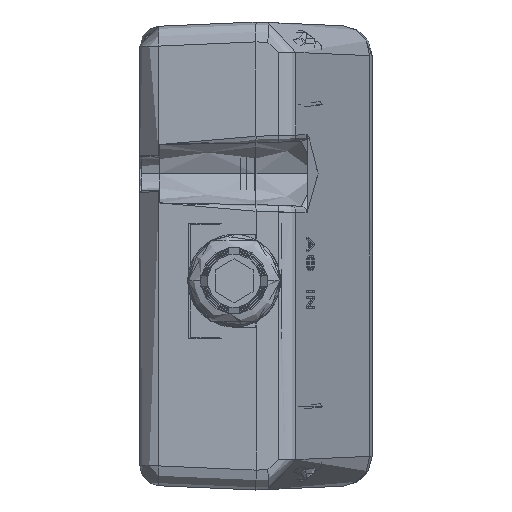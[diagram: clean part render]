
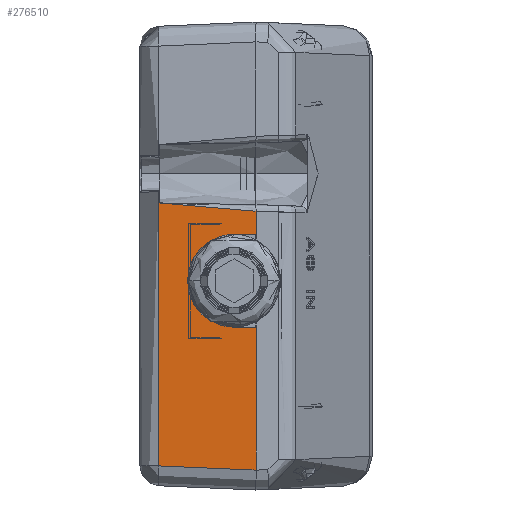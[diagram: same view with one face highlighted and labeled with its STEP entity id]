
A CAD part, left-side view. The second image highlights one B-rep face of the part: STEP entity #276510.
In plain terms, the highlighted planar face has unit normal (-0.999, 0.044, 0).
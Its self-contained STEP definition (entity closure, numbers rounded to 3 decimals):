
#170090=CARTESIAN_POINT('',(-100.264,0.,
6.746));
#170100=VERTEX_POINT('',#170090);
#209040=CARTESIAN_POINT('',(-100.264,0.,
-32.267));
#209050=VERTEX_POINT('',#209040);
#210490=CARTESIAN_POINT('',(-100.264,0.,0.));
#210500=DIRECTION('',(0.,0.,1.));
#210510=VECTOR('',#210500,1.);
#210520=LINE('',#210490,#210510);
#210530=CARTESIAN_POINT('',(-100.264,0.,-10.736));
#210540=VERTEX_POINT('',#210530);
#210550=EDGE_CURVE('',#209050,#210540,#210520,.T.);
#222460=CARTESIAN_POINT('',(-100.264,0.,3.264));
#222470=VERTEX_POINT('',#222460);
#222500=CARTESIAN_POINT('',(-100.264,0.,0.));
#222510=DIRECTION('',(0.,0.,1.));
#222520=VECTOR('',#222510,1.);
#222530=LINE('',#222500,#222520);
#222540=EDGE_CURVE('',#222470,#170100,#222530,.T.);
#259900=CARTESIAN_POINT('',(-99.631,14.5,7.995));
#259910=VERTEX_POINT('',#259900);
#259950=CARTESIAN_POINT('',(-100.264,0.,6.74));
#259960=DIRECTION('',(0.043,0.995,
0.086));
#259970=VECTOR('',#259960,1.);
#259980=LINE('',#259950,#259970);
#259990=EDGE_CURVE('',#170100,#259910,#259980,.T.);
#262140=CARTESIAN_POINT('',(-99.631,14.5,0.));
#262150=DIRECTION('',(0.,0.,-1.));
#262160=VECTOR('',#262150,1.);
#262170=LINE('',#262140,#262160);
#262180=CARTESIAN_POINT('',(-99.631,14.5,9.695));
#262190=VERTEX_POINT('',#262180);
#262200=EDGE_CURVE('',#262190,#259910,#262170,.T.);
#270850=CARTESIAN_POINT('',(-99.625,14.631,
-31.628));
#270860=VERTEX_POINT('',#270850);
#271210=CARTESIAN_POINT('',(-99.631,14.495,
9.696));
#271220=DIRECTION('',(0.044,0.998,
-0.035));
#271230=VECTOR('',#271220,1.);
#271240=LINE('',#271210,#271230);
#271250=CARTESIAN_POINT('',(-99.625,14.631,
9.691));
#271260=VERTEX_POINT('',#271250);
#271270=EDGE_CURVE('',#262190,#271260,#271240,.T.);
#273980=CARTESIAN_POINT('',(-99.625,14.631,
-31.628));
#273990=DIRECTION('',(0.,0.,1.));
#274000=VECTOR('',#273990,1.);
#274010=LINE('',#273980,#274000);
#274020=EDGE_CURVE('',#270860,#271260,#274010,.T.);
#274270=CARTESIAN_POINT('',(-100.279,-0.348,
-32.282));
#274280=DIRECTION('',(0.044,0.998,
0.044));
#274290=VECTOR('',#274280,1.);
#274300=LINE('',#274270,#274290);
#274310=EDGE_CURVE('',#209050,#270860,#274300,.T.);
#275800=CARTESIAN_POINT('',(-99.784,11.,-10.736));
#275810=DIRECTION('',(-0.044,-0.999,0.));
#275820=VECTOR('',#275810,1.);
#275830=LINE('',#275800,#275820);
#275840=CARTESIAN_POINT('',(-100.12,3.307,
-10.737));
#275850=VERTEX_POINT('',#275840);
#275860=EDGE_CURVE('',#275850,#210540,#275830,.T.);
#276040=CARTESIAN_POINT('',(-100.277,-0.293,
-32.774));
#276050=DIRECTION('',(-0.999,0.044,0.));
#276060=DIRECTION('',(0.044,0.999,0.));
#276070=AXIS2_PLACEMENT_3D('',#276040,#276050,#276060);
#276080=PLANE('',#276070);
#276090=ORIENTED_EDGE('',*,*,#271270,.T.);
#276100=ORIENTED_EDGE('',*,*,#262200,.F.);
#276110=ORIENTED_EDGE('',*,*,#259990,.T.);
#276120=ORIENTED_EDGE('',*,*,#222540,.T.);
#276130=CARTESIAN_POINT('',(-99.784,11.,3.264));
#276140=DIRECTION('',(0.044,0.999,0.));
#276150=VECTOR('',#276140,1.);
#276160=LINE('',#276130,#276150);
#276170=CARTESIAN_POINT('',(-100.12,3.307,
3.265));
#276180=VERTEX_POINT('',#276170);
#276190=EDGE_CURVE('',#222470,#276180,#276160,.T.);
#276200=ORIENTED_EDGE('',*,*,#276190,.F.);
#276210=CARTESIAN_POINT('',(-99.814,10.3,
-3.736));
#276220=CARTESIAN_POINT('',(-99.814,10.3,
-3.21));
#276230=CARTESIAN_POINT('',(-99.82,10.18,
-2.158));
#276240=CARTESIAN_POINT('',(-99.85,9.488,
-0.178));
#276250=CARTESIAN_POINT('',(-99.924,7.798,
1.935));
#276260=CARTESIAN_POINT('',(-100.028,5.399,
3.084));
#276270=CARTESIAN_POINT('',(-100.097,3.829,
3.265));
#276280=CARTESIAN_POINT('',(-100.12,3.307,
3.265));
#276290=B_SPLINE_CURVE_WITH_KNOTS('',3,(#276210,#276220,#276230,#276240,
#276250,#276260,#276270,#276280),.UNSPECIFIED.,.F.,.F.,(4,1,1,1,1,4),(0.
,0.144,0.287,0.571,0.857,
1.),.UNSPECIFIED.);
#276300=CARTESIAN_POINT('',(-99.814,10.3,
-3.736));
#276310=VERTEX_POINT('',#276300);
#276320=EDGE_CURVE('',#276310,#276180,#276290,.T.);
#276330=ORIENTED_EDGE('',*,*,#276320,.T.);
#276340=CARTESIAN_POINT('',(-100.12,3.307,
-10.737));
#276350=CARTESIAN_POINT('',(-100.074,4.351,
-10.737));
#276360=CARTESIAN_POINT('',(-100.006,5.92,
-10.373));
#276370=CARTESIAN_POINT('',(-99.909,8.138,
-8.982));
#276380=CARTESIAN_POINT('',(-99.85,9.488,
-7.294));
#276390=CARTESIAN_POINT('',(-99.82,10.18,
-5.314));
#276400=CARTESIAN_POINT('',(-99.814,10.3,
-4.261));
#276410=CARTESIAN_POINT('',(-99.814,10.3,
-3.736));
#276420=B_SPLINE_CURVE_WITH_KNOTS('',3,(#276340,#276350,#276360,#276370,
#276380,#276390,#276400,#276410),.UNSPECIFIED.,.F.,.F.,(4,1,1,1,1,4),(0.
,0.286,0.429,0.713,0.856
,1.),.UNSPECIFIED.);
#276430=EDGE_CURVE('',#275850,#276310,#276420,.T.);
#276440=ORIENTED_EDGE('',*,*,#276430,.T.);
#276450=ORIENTED_EDGE('',*,*,#275860,.F.);
#276460=ORIENTED_EDGE('',*,*,#210550,.T.);
#276470=ORIENTED_EDGE('',*,*,#274310,.F.);
#276480=ORIENTED_EDGE('',*,*,#274020,.F.);
#276490=EDGE_LOOP('',(#276480,#276470,#276460,#276450,#276440,#276330,
#276200,#276120,#276110,#276100,#276090));
#276500=FACE_OUTER_BOUND('',#276490,.T.);
#276510=ADVANCED_FACE('',(#276500),#276080,.T.);
